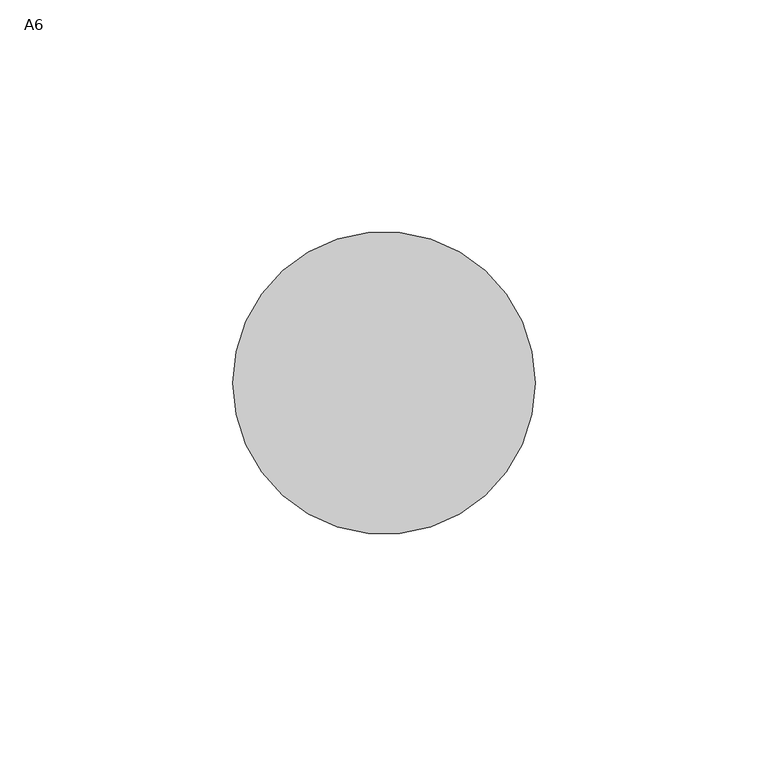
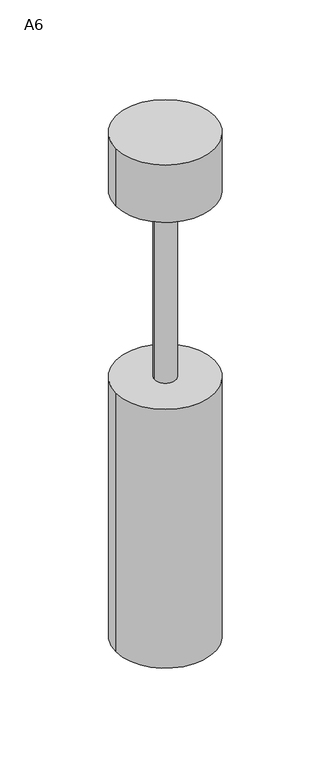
"""IFC4 building model written with IfcOpenShell, lengths in millimetres: light fixture geometry, AI_Luminaire_Circulaire suspendu : A6."""

from ifc_helpers import new_model, si_unit, point, frame, origin, origin_2d, place, context, project, spatial, circle_curve, trimmed, segment, composite_curve, outline, extrude, source, transform, mapped, element, save


def a6_c546ef90(model_context):
    return source(origin(), model_context, "Body", "SweptSolid", [
        extrude(outline(composite_curve([segment(trimmed(circle_curve(origin_2d(), 32.5), [point((-32.5, 0.0))], [point((32.5, 0.0))], False, "CARTESIAN"), True, "CONTINUOUS"), segment(trimmed(circle_curve(origin_2d(), 32.5), [point((32.5, 0.0))], [point((-32.5, 0.0))], False, "CARTESIAN"), True, "CONTINUOUS")], self_intersect=False)), frame((0.0, 0.0, -350.0), z_axis=(0.0, 0.0, 1.0), x_axis=(1.0, 0.0, 0.0)), (0.0, 0.0, 1.0), 180.0),
        extrude(outline(composite_curve([segment(trimmed(circle_curve(origin_2d(), 32.5), [point((-32.5, 0.0))], [point((32.5, 0.0))], False, "CARTESIAN"), True, "CONTINUOUS"), segment(trimmed(circle_curve(origin_2d(), 32.5), [point((32.5, 0.0))], [point((-32.5, 0.0))], False, "CARTESIAN"), True, "CONTINUOUS")], self_intersect=False)), frame((0.0, 0.0, -40.0), z_axis=(0.0, 0.0, 1.0), x_axis=(1.0, 0.0, 0.0)), (0.0, 0.0, 1.0), 40.0),
        extrude(outline(composite_curve([segment(trimmed(circle_curve(origin_2d(), 7.0), [point((-7.0, 0.0))], [point((7.0, 0.0))], False, "CARTESIAN"), True, "CONTINUOUS"), segment(trimmed(circle_curve(origin_2d(), 7.0), [point((7.0, 0.0))], [point((-7.0, 0.0))], False, "CARTESIAN"), True, "CONTINUOUS")], self_intersect=False)), frame((0.0, 0.0, -170.0), z_axis=(0.0, 0.0, 1.0), x_axis=(1.0, 0.0, 0.0)), (0.0, 0.0, 1.0), 130.0),
    ])


if __name__ == "__main__":
    model = new_model("IFC4")
    model_context = context("Model", 3, world=origin())
    ifc_project = project(units=[si_unit("LENGTHUNIT", "METRE", prefix="MILLI")], contexts=[model_context])
    site = spatial("IfcSite", under=ifc_project)
    building = spatial("IfcBuilding", under=site)
    placement = place(None, origin())
    a6_shape = a6_c546ef90(model_context)
    element("IfcLightFixture", 1, ObjectType="AI_Luminaire_Circulaire suspendu : A6", at=placement, inside=building, context=model_context, shape_type="MappedRepresentation", body=[
        mapped(a6_shape, transform((0.0, 0.0, 0.0), x_axis=(1.0, 0.0, 0.0), y_axis=(0.0, 1.0, 0.0), z_axis=(0.0, 0.0, 1.0))),
    ])
    save(model, "model.ifc")
